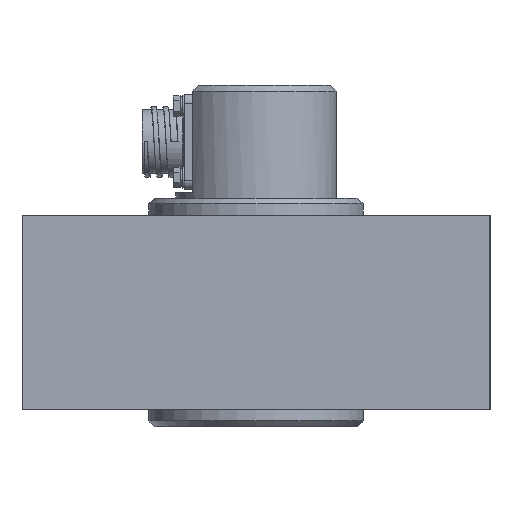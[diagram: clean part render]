
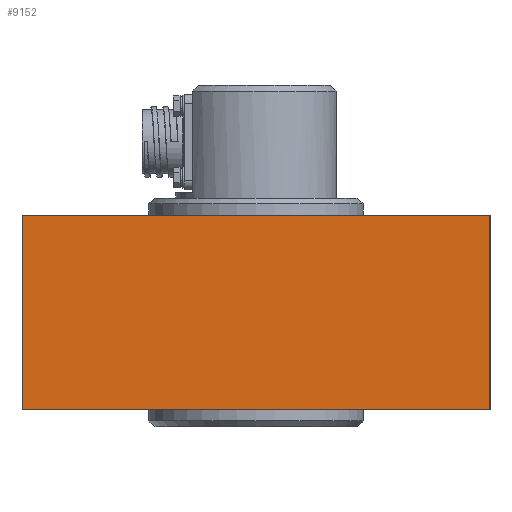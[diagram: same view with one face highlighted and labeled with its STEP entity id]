
A CAD part, left-side view. The second image highlights one B-rep face of the part: STEP entity #9152.
In plain terms, the highlighted planar face has unit normal (-1, 0, 0).
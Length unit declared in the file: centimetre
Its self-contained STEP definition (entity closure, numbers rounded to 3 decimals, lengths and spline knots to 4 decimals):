
#1484=VECTOR('',#15202,1.);
#1489=VECTOR('',#15216,1.);
#1493=VECTOR('',#15231,1.);
#1495=VECTOR('',#15235,1.);
#2094=LINE('',#10484,#1484);
#2099=LINE('',#10503,#1489);
#2103=LINE('',#10517,#1493);
#2105=LINE('',#10521,#1495);
#2709=PLANE('',#9701);
#3108=VERTEX_POINT('',#10485);
#3109=VERTEX_POINT('',#10486);
#3115=VERTEX_POINT('',#10501);
#3117=VERTEX_POINT('',#10504);
#4224=EDGE_CURVE('',#3108,#3109,#2094,.T.);
#4232=EDGE_CURVE('',#3117,#3115,#2099,.T.);
#4238=EDGE_CURVE('',#3108,#3115,#2103,.T.);
#4240=EDGE_CURVE('',#3109,#3117,#2105,.T.);
#5380=ORIENTED_EDGE('',*,*,#4232,.T.);
#5381=ORIENTED_EDGE('',*,*,#4238,.F.);
#5382=ORIENTED_EDGE('',*,*,#4224,.T.);
#5383=ORIENTED_EDGE('',*,*,#4240,.T.);
#7611=EDGE_LOOP('',(#5380,#5381,#5382,#5383));
#8387=FACE_BOUND('',#7611,.T.);
#9152=ADVANCED_FACE('',(#8387),#2709,.T.);
#9701=AXIS2_PLACEMENT_3D('',#10522,#15236,$);
#10484=CARTESIAN_POINT('',(-24.,8.3,0.));
#10485=CARTESIAN_POINT('',(-24.,8.3,0.));
#10486=CARTESIAN_POINT('',(-24.,-8.3,0.));
#10501=CARTESIAN_POINT('',(-24.,8.3,6.9));
#10503=CARTESIAN_POINT('',(-24.,8.3,6.9));
#10504=CARTESIAN_POINT('',(-24.,-8.3,6.9));
#10517=CARTESIAN_POINT('',(-24.,8.3,0.));
#10521=CARTESIAN_POINT('',(-24.,-8.3,0.));
#10522=CARTESIAN_POINT('',(-24.,0.,0.));
#15202=DIRECTION('',(0.,-1.,0.));
#15216=DIRECTION('',(0.,1.,0.));
#15231=DIRECTION('',(0.,0.,1.));
#15235=DIRECTION('',(0.,0.,1.));
#15236=DIRECTION('',(-1.,0.,0.));
